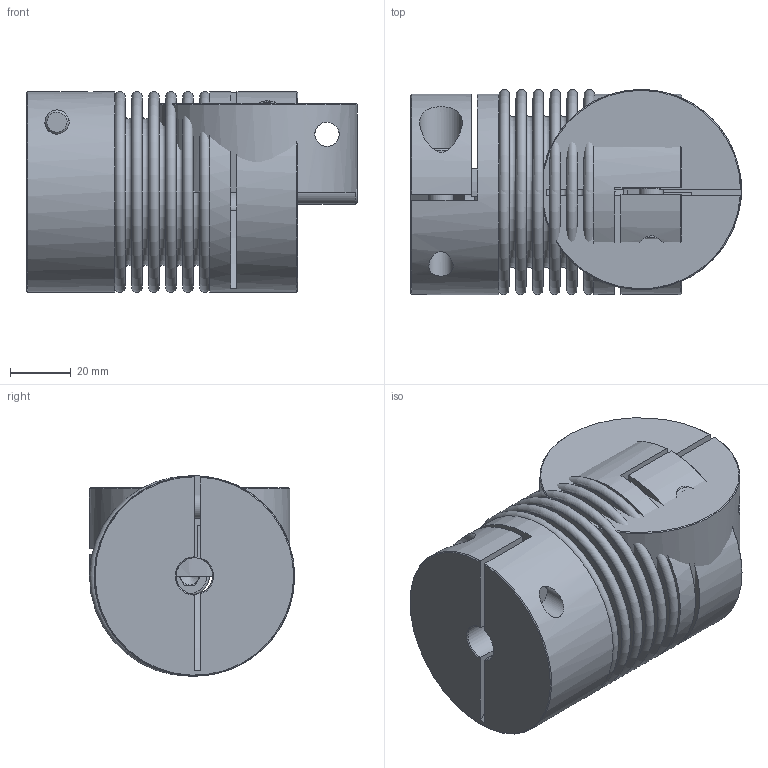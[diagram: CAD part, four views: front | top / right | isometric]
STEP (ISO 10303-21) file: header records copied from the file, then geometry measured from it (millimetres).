
FILE_DESCRIPTION( ( 'Unknown' ), '1' );
FILE_NAME( 'C:/Dokumente und Einstellungen/Sven/Desktop/cad - homepage/KB4/KB4-60-89.stp', 'Unknown', ( 'Unknown' ), ( 'Unknown' ), 'XStep 1.0', 'Unknown', ' ' );
FILE_SCHEMA( ( 'automotive_design' ) );
Length unit declared in the file: millimetre
Products named in the file (4): Assem1; Socket Head Cap Screw_DIN_DIN 912 M8 x 25 --- 25N_0; BL60_Standard; KN60_Standard_0
Bounding box: 108.96 x 67.57 x 66 mm (x, y, z)
Volume: 290951.8 mm3; surface area: 154033.3 mm2
Topology: 8 solids, 8 shells, 234 faces, 478 edges, 311 vertices
Faces by surface type: plane 127, torus 54, cylinder 38, cone 15
Full cylindrical faces by diameter (mm): 8 x6, 8.5 x3, 12 x3, 13 x3, 14 x3, 56.3 x4, 57.3 x4, 66 x3
Entity records: 2646 total; most frequent: CARTESIAN_POINT 532, DIRECTION 427, ORIENTED_EDGE 282, AXIS2_PLACEMENT_3D 191, EDGE_LOOP 168, EDGE_CURVE 141, FACE_OUTER_BOUND 133, VERTEX_POINT 116
